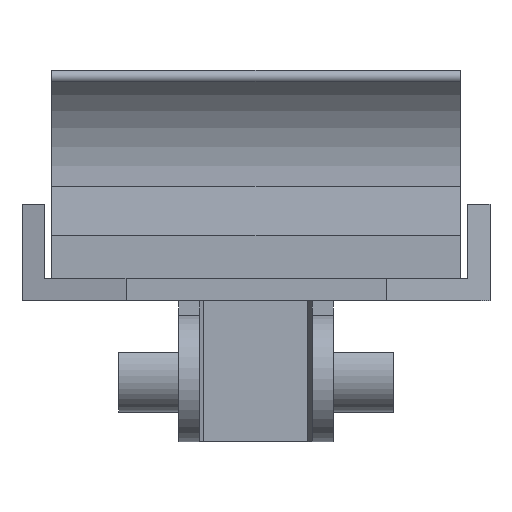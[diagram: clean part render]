
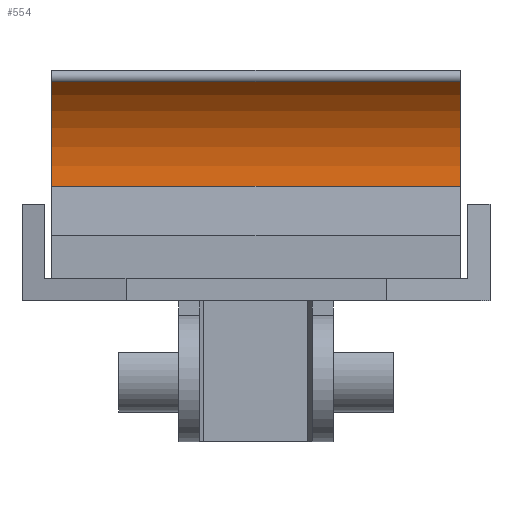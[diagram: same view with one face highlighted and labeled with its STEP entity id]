
A CAD part, left-side view. The second image highlights one B-rep face of the part: STEP entity #554.
In plain terms, the highlighted cylindrical face has radius 15.5 mm (diameter 31 mm), a partial arc.
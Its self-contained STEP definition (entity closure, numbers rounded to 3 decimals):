
#75 = VERTEX_POINT ( 'NONE', #1558 ) ;
#554 = ADVANCED_FACE ( 'NONE', ( #4150 ), #4180, .F. ) ;
#637 = EDGE_CURVE ( 'NONE', #669, #660, #4004, .T. ) ;
#641 = ORIENTED_EDGE ( 'NONE', *, *, #699, .T. ) ;
#645 = EDGE_CURVE ( 'NONE', #660, #75, #4016, .T. ) ;
#647 = ORIENTED_EDGE ( 'NONE', *, *, #655, .T. ) ;
#655 = EDGE_CURVE ( 'NONE', #678, #669, #4025, .T. ) ;
#660 = VERTEX_POINT ( 'NONE', #4039 ) ;
#669 = VERTEX_POINT ( 'NONE', #3978 ) ;
#670 = ORIENTED_EDGE ( 'NONE', *, *, #637, .T. ) ;
#676 = ORIENTED_EDGE ( 'NONE', *, *, #645, .T. ) ;
#678 = VERTEX_POINT ( 'NONE', #3987 ) ;
#687 = EDGE_LOOP ( 'NONE', ( #670, #676, #641, #647 ) ) ;
#699 = EDGE_CURVE ( 'NONE', #75, #678, #4502, .T. ) ;
#1558 = CARTESIAN_POINT ( 'NONE',  ( -16.148, -27.531, 62.582 ) ) ;
#3978 = CARTESIAN_POINT ( 'NONE',  ( -10.347, 27.469, 48.511 ) ) ;
#3987 = CARTESIAN_POINT ( 'NONE',  ( -16.148, 27.469, 62.582 ) ) ;
#3988 = DIRECTION ( 'NONE',  ( 0., -1., 0. ) ) ;
#3996 = DIRECTION ( 'NONE',  ( 0.993, 0., -0.122 ) ) ;
#3997 = DIRECTION ( 'NONE',  ( 0., -1., 0. ) ) ;
#3999 = AXIS2_PLACEMENT_3D ( 'NONE', #4010, #3997, #3996 ) ;
#4004 = LINE ( 'NONE', #4036, #4011 ) ;
#4010 = CARTESIAN_POINT ( 'NONE',  ( -25.732, -27.531, 50.4 ) ) ;
#4011 = VECTOR ( 'NONE', #3988, 1000. ) ;
#4012 = AXIS2_PLACEMENT_3D ( 'NONE', #4032, #4031, #4030 ) ;
#4016 = CIRCLE ( 'NONE', #3999, 15.5 ) ;
#4025 = CIRCLE ( 'NONE', #4012, 15.5 ) ;
#4030 = DIRECTION ( 'NONE',  ( 0.993, 0., -0.122 ) ) ;
#4031 = DIRECTION ( 'NONE',  ( 0., 1., 0. ) ) ;
#4032 = CARTESIAN_POINT ( 'NONE',  ( -25.732, 27.469, 50.4 ) ) ;
#4036 = CARTESIAN_POINT ( 'NONE',  ( -10.347, 27.469, 48.511 ) ) ;
#4039 = CARTESIAN_POINT ( 'NONE',  ( -10.347, -27.531, 48.511 ) ) ;
#4150 = FACE_OUTER_BOUND ( 'NONE', #687, .T. ) ;
#4168 = AXIS2_PLACEMENT_3D ( 'NONE', #4176, #4175, #4172 ) ;
#4172 = DIRECTION ( 'NONE',  ( 0., 0., -1. ) ) ;
#4175 = DIRECTION ( 'NONE',  ( 0., -1., 0. ) ) ;
#4176 = CARTESIAN_POINT ( 'NONE',  ( -25.732, 27.469, 50.4 ) ) ;
#4180 = CYLINDRICAL_SURFACE ( 'NONE', #4168, 15.5 ) ;
#4492 = DIRECTION ( 'NONE',  ( 0., 1., 0. ) ) ;
#4493 = VECTOR ( 'NONE', #4492, 1000. ) ;
#4494 = CARTESIAN_POINT ( 'NONE',  ( -16.148, 27.469, 62.582 ) ) ;
#4502 = LINE ( 'NONE', #4494, #4493 ) ;
